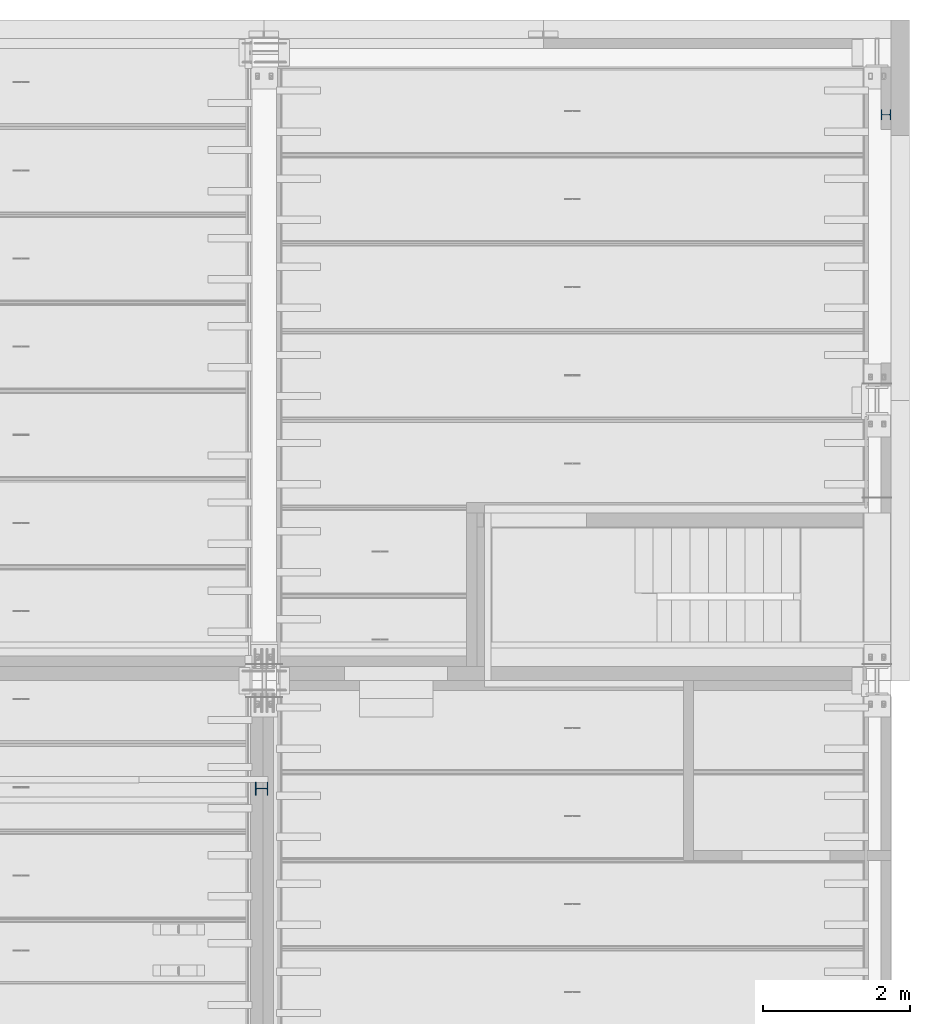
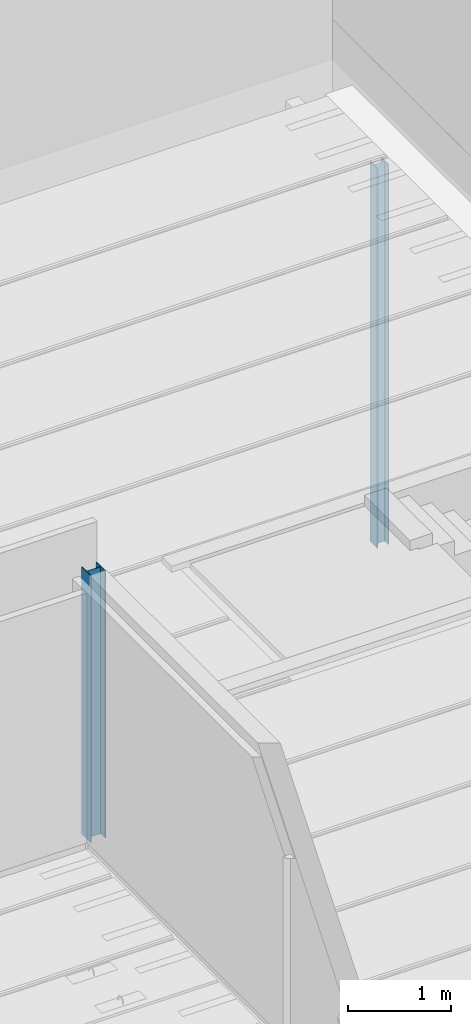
# One storey, part 4 of 230: 2 columns.
"""IFC4X3_ADD2 building model written with IfcOpenShell, lengths in millimetres."""

from ifc_helpers import new_model, si_unit, point, direction, frame, frame_2d, origin_with_axes, place, context, subcontext, project, spatial, polyline, circle_curve, trimmed, segment, composite_curve, outline, extrude, source, transform, mapped, material, type_object, type_shapes, element, save


model = new_model("IFC4X3_ADD2")

# Units and contexts
model_context = context("Model", 3, precision=1e-05, world=origin_with_axes(), true_north=direction((0.0, 1.0)))
body_context = subcontext(model_context, "Body", "Model", "MODEL_VIEW")
ifc_project = project(units=[si_unit("LENGTHUNIT", "METRE", prefix="MILLI"), si_unit("AREAUNIT", "SQUARE_METRE"), si_unit("VOLUMEUNIT", "CUBIC_METRE"), si_unit("PLANEANGLEUNIT", "RADIAN"), si_unit("TIMEUNIT", "SECOND"), si_unit("MASSUNIT", "GRAM")], contexts=[model_context])

# Site, building, storey
site_placement = place(None, origin_with_axes())
site = spatial("IfcSite", under=ifc_project, at=site_placement, Name="Site", CompositionType="ELEMENT")
building_placement = place(site_placement, origin_with_axes())
building = spatial("IfcBuilding", under=site, at=building_placement, Name="IFC Building Story")
storey_placement = place(building_placement, origin_with_axes())
storey = spatial("IfcBuildingStorey", under=building, at=storey_placement, Name="ETAGE 00 (0)", Elevation=0.0)

# Columns
ifc_material = material(Name="BS_28_Métal")
column_type_1 = type_object("IfcColumnType", Name="BS_28_SCO_LE_Poteau HE-A_HEA180_1", PredefinedType="NOTDEFINED")
shared_shape_1 = source(origin_with_axes(), body_context, "Body", "SweptSolid", [
    extrude(outline(composite_curve([segment(polyline([(85.5, -90.00000000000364), (76.0, -90.00000000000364)]), True, "CONTINUOUS"), segment(polyline([(76.0, -90.00000000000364), (76.0, -18.00000000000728)]), True, "CONTINUOUS"), segment(trimmed(circle_curve(frame_2d((60.99999999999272, -18.00000000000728), x_axis=(1.0, 0.0)), 14.99999999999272), [point((76.0, -18.00000000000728))], [point((60.99999999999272, -3.000000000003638))], True, "CARTESIAN"), True, "CONTINUOUS"), segment(polyline([(60.99999999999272, -3.000000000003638), (-60.99999999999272, -3.000000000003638)]), True, "CONTINUOUS"), segment(trimmed(circle_curve(frame_2d((-60.99999999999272, -18.00000000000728), x_axis=(1.0, 0.0)), 14.99999999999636), [point((-60.99999999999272, -3.000000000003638))], [point((-75.99999999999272, -18.00000000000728))], True, "CARTESIAN"), True, "CONTINUOUS"), segment(polyline([(-75.99999999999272, -18.00000000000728), (-75.99999999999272, -90.00000000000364)]), True, "CONTINUOUS"), segment(polyline([(-75.99999999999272, -90.00000000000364), (-85.49999999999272, -90.00000000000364)]), True, "CONTINUOUS"), segment(polyline([(-85.49999999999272, -90.00000000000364), (-85.49999999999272, 89.99999999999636)]), True, "CONTINUOUS"), segment(polyline([(-85.49999999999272, 89.99999999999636), (-75.99999999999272, 89.99999999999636)]), True, "CONTINUOUS"), segment(polyline([(-75.99999999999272, 89.99999999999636), (-75.99999999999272, 17.99999999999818)]), True, "CONTINUOUS"), segment(trimmed(circle_curve(frame_2d((-60.99999999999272, 17.99999999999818), x_axis=(1.0, 0.0)), 15.0), [point((-75.99999999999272, 17.99999999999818))], [point((-60.99999999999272, 2.999999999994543))], True, "CARTESIAN"), True, "CONTINUOUS"), segment(polyline([(-60.99999999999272, 2.999999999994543), (60.99999999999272, 2.999999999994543)]), True, "CONTINUOUS"), segment(trimmed(circle_curve(frame_2d((60.99999999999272, 17.99999999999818), x_axis=(1.0, 0.0)), 14.99999999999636), [point((60.99999999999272, 2.999999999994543))], [point((76.0, 17.99999999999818))], True, "CARTESIAN"), True, "CONTINUOUS"), segment(polyline([(76.0, 17.99999999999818), (76.0, 89.99999999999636)]), True, "CONTINUOUS"), segment(polyline([(76.0, 89.99999999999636), (85.5, 89.99999999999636)]), True, "CONTINUOUS"), segment(polyline([(85.5, 89.99999999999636), (85.5, -90.00000000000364)]), True, "CONTINUOUS")], self_intersect=False)), frame((39931.68947802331, 16334.5000000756, 4270.0), z_axis=(0.0, 0.0, 1.0), x_axis=(1.0, 0.0, 0.0)), (0.0, 0.0, 1.0), 3160.0),
])
type_shapes(column_type_1, [shared_shape_1])
column_1_placement = place(storey_placement, origin_with_axes())
element("IfcColumn", 1, at=column_1_placement, inside=storey, type_object=column_type_1, material=ifc_material, Name="BS_28_SCO_LE_Poteau HE-A:HEA180", ObjectType="HEA180", context=body_context, shape_type="MappedRepresentation", body=[
    mapped(shared_shape_1, transform((0.0, 0.0, 0.0))),
])
column_type_2 = type_object("IfcColumnType", Name="BS_28_SCO_LE_Poteau HE-A_HEA140_1", PredefinedType="NOTDEFINED")
shared_shape_2 = source(origin_with_axes(), body_context, "Body", "SweptSolid", [
    extrude(outline(composite_curve([segment(polyline([(66.49999999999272, -70.00000000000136), (58.0, -70.00000000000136)]), True, "CONTINUOUS"), segment(polyline([(58.0, -70.00000000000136), (58.0, -14.74999999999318)]), True, "CONTINUOUS"), segment(trimmed(circle_curve(frame_2d((46.00000000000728, -14.74999999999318), x_axis=(1.0, 0.0)), 11.99999999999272), [point((58.0, -14.74999999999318))], [point((46.00000000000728, -2.750000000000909))], True, "CARTESIAN"), True, "CONTINUOUS"), segment(polyline([(46.00000000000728, -2.750000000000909), (-46.00000000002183, -2.750000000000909)]), True, "CONTINUOUS"), segment(trimmed(circle_curve(frame_2d((-46.00000000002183, -14.74999999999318), x_axis=(1.0, 0.0)), 11.99999999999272), [point((-46.00000000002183, -2.750000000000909))], [point((-58.00000000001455, -14.74999999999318))], True, "CARTESIAN"), True, "CONTINUOUS"), segment(polyline([(-58.00000000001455, -14.74999999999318), (-58.00000000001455, -70.00000000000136)]), True, "CONTINUOUS"), segment(polyline([(-58.00000000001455, -70.00000000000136), (-66.50000000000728, -70.00000000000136)]), True, "CONTINUOUS"), segment(polyline([(-66.50000000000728, -70.00000000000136), (-66.50000000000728, 69.99999999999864)]), True, "CONTINUOUS"), segment(polyline([(-66.50000000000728, 69.99999999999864), (-58.00000000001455, 69.99999999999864)]), True, "CONTINUOUS"), segment(polyline([(-58.00000000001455, 69.99999999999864), (-58.00000000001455, 14.74999999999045)]), True, "CONTINUOUS"), segment(trimmed(circle_curve(frame_2d((-46.00000000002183, 14.74999999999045), x_axis=(1.0, 0.0)), 11.99999999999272), [point((-58.00000000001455, 14.74999999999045))], [point((-46.00000000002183, 2.749999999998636))], True, "CARTESIAN"), True, "CONTINUOUS"), segment(polyline([(-46.00000000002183, 2.749999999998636), (46.00000000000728, 2.749999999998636)]), True, "CONTINUOUS"), segment(trimmed(circle_curve(frame_2d((46.00000000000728, 14.74999999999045), x_axis=(1.0, 0.0)), 11.99999999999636), [point((46.00000000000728, 2.749999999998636))], [point((58.0, 14.74999999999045))], True, "CARTESIAN"), True, "CONTINUOUS"), segment(polyline([(58.0, 14.74999999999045), (58.0, 69.99999999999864)]), True, "CONTINUOUS"), segment(polyline([(58.0, 69.99999999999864), (66.49999999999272, 69.99999999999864)]), True, "CONTINUOUS"), segment(polyline([(66.49999999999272, 69.99999999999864), (66.49999999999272, -70.00000000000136)]), True, "CONTINUOUS")], self_intersect=False)), frame((48430.18934819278, 25510.51359455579, -800.0), z_axis=(0.0, 0.0, 1.0), x_axis=(1.0, 0.0, 0.0)), (0.0, 0.0, 1.0), 4500.0),
])
type_shapes(column_type_2, [shared_shape_2])
column_2_placement = place(storey_placement, origin_with_axes())
element("IfcColumn", 2, at=column_2_placement, inside=storey, type_object=column_type_2, material=ifc_material, Name="BS_28_SCO_LE_Poteau HE-A:HEA140", ObjectType="HEA140", context=body_context, shape_type="MappedRepresentation", body=[
    mapped(shared_shape_2, transform((0.0, 0.0, 0.0))),
])

save(model, "model.ifc")
